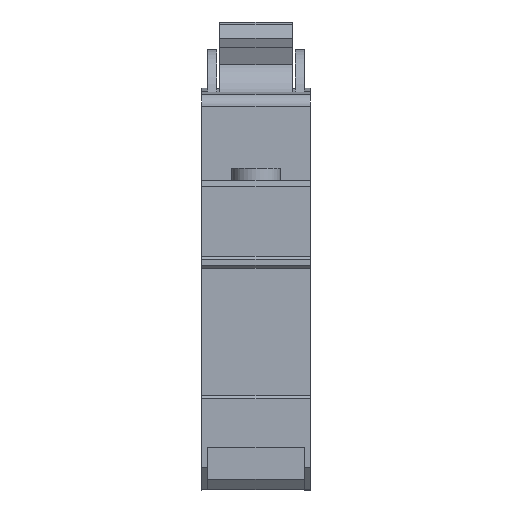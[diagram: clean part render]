
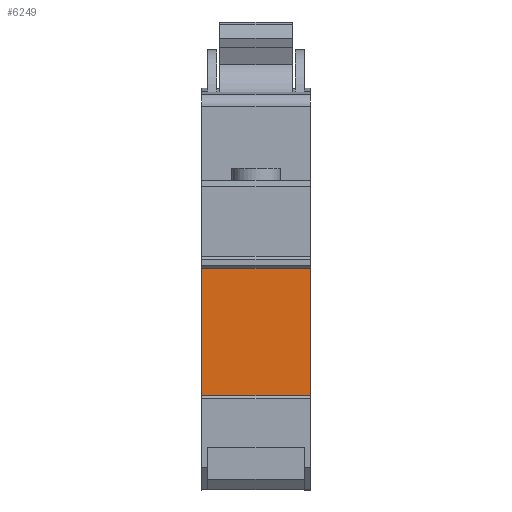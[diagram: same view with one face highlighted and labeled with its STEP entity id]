
A CAD part, front view. The second image highlights one B-rep face of the part: STEP entity #6249.
In plain terms, the highlighted planar face has unit normal (0, -1, 0).
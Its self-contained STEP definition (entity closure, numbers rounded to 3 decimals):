
#274=PLANE('',#6706);
#686=FACE_OUTER_BOUND('',#1093,.T.);
#1093=EDGE_LOOP('',(#5333,#5334,#5335,#5336));
#1748=LINE('',#11296,#2278);
#1808=LINE('',#11527,#2338);
#1809=LINE('',#11530,#2339);
#1810=LINE('',#11531,#2340);
#2278=VECTOR('',#7615,10.);
#2338=VECTOR('',#7867,10.);
#2339=VECTOR('',#7870,10.);
#2340=VECTOR('',#7871,10.);
#3019=VERTEX_POINT('',#11293);
#3020=VERTEX_POINT('',#11295);
#3095=VERTEX_POINT('',#11525);
#3096=VERTEX_POINT('',#11529);
#3792=EDGE_CURVE('',#3020,#3019,#1748,.T.);
#3895=EDGE_CURVE('',#3019,#3095,#1808,.T.);
#3896=EDGE_CURVE('',#3096,#3095,#1809,.T.);
#3897=EDGE_CURVE('',#3020,#3096,#1810,.T.);
#5333=ORIENTED_EDGE('',*,*,#3792,.T.);
#5334=ORIENTED_EDGE('',*,*,#3895,.T.);
#5335=ORIENTED_EDGE('',*,*,#3896,.F.);
#5336=ORIENTED_EDGE('',*,*,#3897,.F.);
#6249=ADVANCED_FACE('',(#686),#274,.T.);
#6706=AXIS2_PLACEMENT_3D('',#11528,#7868,#7869);
#7615=DIRECTION('',(0.,0.,-1.));
#7867=DIRECTION('',(1.,0.,0.));
#7868=DIRECTION('center_axis',(0.,-1.,0.));
#7869=DIRECTION('ref_axis',(0.,0.,-1.));
#7870=DIRECTION('',(0.,0.,-1.));
#7871=DIRECTION('',(1.,0.,0.));
#11293=CARTESIAN_POINT('',(0.,-36.074,-24.923));
#11295=CARTESIAN_POINT('',(0.,-36.074,-3.815));
#11296=CARTESIAN_POINT('',(0.,-36.074,-3.815));
#11525=CARTESIAN_POINT('',(18.,-36.074,-24.923));
#11527=CARTESIAN_POINT('',(0.,-36.074,-24.923));
#11528=CARTESIAN_POINT('Origin',(0.,-36.074,-3.815));
#11529=CARTESIAN_POINT('',(18.,-36.074,-3.815));
#11530=CARTESIAN_POINT('',(18.,-36.074,-3.815));
#11531=CARTESIAN_POINT('',(0.,-36.074,-3.815));
